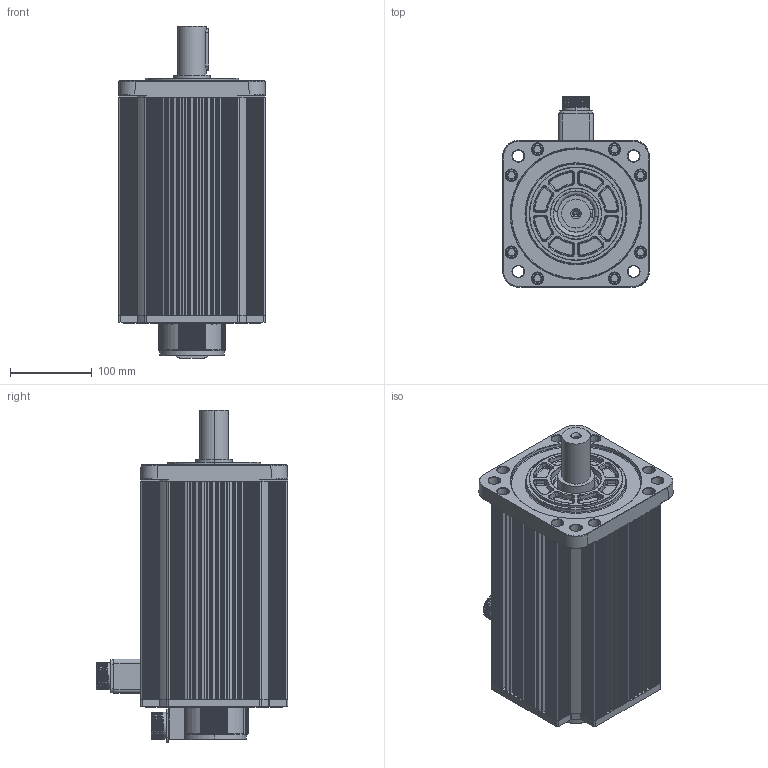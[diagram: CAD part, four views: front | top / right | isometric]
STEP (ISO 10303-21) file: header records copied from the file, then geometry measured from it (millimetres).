
FILE_DESCRIPTION (( 'STEP AP203' ), '1' );
FILE_NAME ('180zf1500r7.5kw.STEP', '2024-10-23T06:06:57', ( 'MicroSoft' ), ( 'MicroSoft' ), 'SwSTEP 2.0', 'SolidWorks 2020', '' );
FILE_SCHEMA (( 'CONFIG_CONTROL_DESIGN' ));
Length unit declared in the file: millimetre
Products named in the file (14): 180綴粣創; 180呿蹋晤鎢ん欶褲; Z130A-01-02(编码器后罩壳）; 180后端盖 新款 1_制动后盖1; 180堤盄碟; 180ヶ粣創; 180zf1500r7.5kw; 180ヶ傷裔陔遴 1; 180 平键（14-9-91）; Z130A-01-03(编码器后罩壳封盖）; Z180-01-01A(180电机轴-锥轴全系列)-3000_5.5KW; 180-X陔遴儂褲_7.5陔遴; Z航插15芯（公头电机端）28; Z航空插头-4芯（公头电机端）32
Assembly tree (13 placements, depth 3):
  180zf1500r7.5kw
    180-X陔遴儂褲_7.5陔遴
    180ヶ傷裔陔遴 1
    180后端盖 新款 1_制动后盖1
    Z180-01-01A(180电机轴-锥轴全系列)-3000_5.5KW
    180ヶ粣創
    180綴粣創
    180堤盄碟
    Z航空插头-4芯（公头电机端）32
    Z航插15芯（公头电机端）28
    180 平键（14-9-91）
    180呿蹋晤鎢ん欶褲
      Z130A-01-02(编码器后罩壳）
    Z130A-01-03(编码器后罩壳封盖）
Bounding box: 180.31 x 234.51 x 406.5 mm (x, y, z)
Volume: 2725578.5 mm3; surface area: 785188 mm2
Topology: 12 solids, 12 shells, 4850 faces, 12502 edges, 7711 vertices
Faces by surface type: cylinder 1831, plane 1351, bspline 688, torus 506, cone 292, sphere 182
Entity records: 179653 total; most frequent: CARTESIAN_POINT 62739, ORIENTED_EDGE 24652, DIRECTION 24283, EDGE_CURVE 12326, AXIS2_PLACEMENT_3D 9383, VERTEX_POINT 7677, LINE 5517, VECTOR 5517
